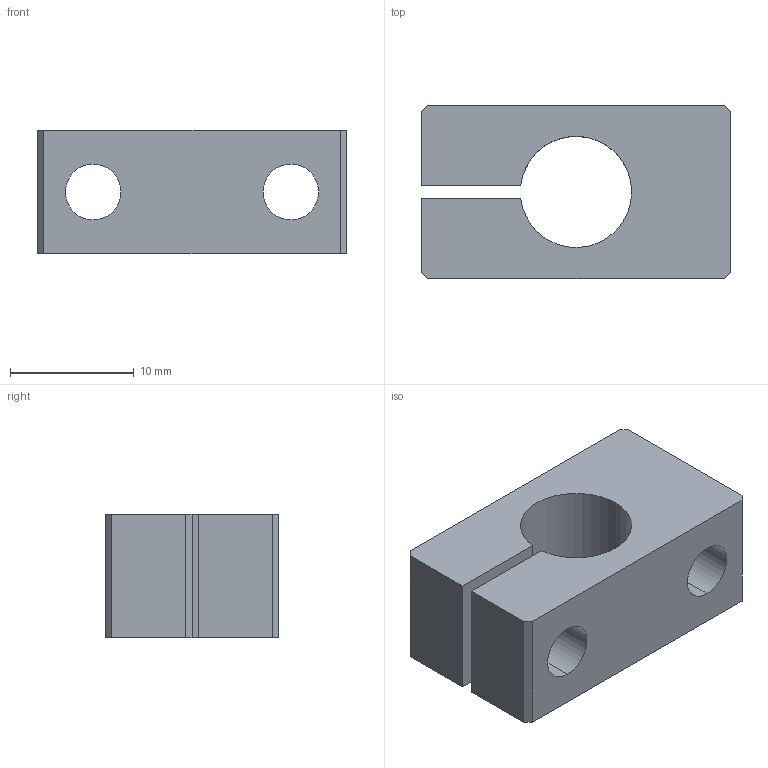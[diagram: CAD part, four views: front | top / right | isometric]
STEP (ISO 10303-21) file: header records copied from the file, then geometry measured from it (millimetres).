
FILE_DESCRIPTION (( '' ), '1' );
FILE_NAME ('CM10x1.STEP', '', ( '' ), ( '' ), '', '', '' );
FILE_SCHEMA (( 'CONFIG_CONTROL_DESIGN' ));
Length unit declared in the file: millimetre
Products named in the file (1): PCM0100010-0000(CLAMP MOUNT)
Bounding box: 25 x 14 x 10 mm (x, y, z)
Volume: 2140.1 mm3; surface area: 2103.3 mm2
Topology: 1 solids, 1 shells, 27 faces, 69 edges, 46 vertices
Faces by surface type: plane 15, cylinder 12
Entity records: 916 total; most frequent: DIRECTION 149, CARTESIAN_POINT 143, ORIENTED_EDGE 138, EDGE_CURVE 69, AXIS2_PLACEMENT_3D 52, VERTEX_POINT 46, VECTOR 45, LINE 45
